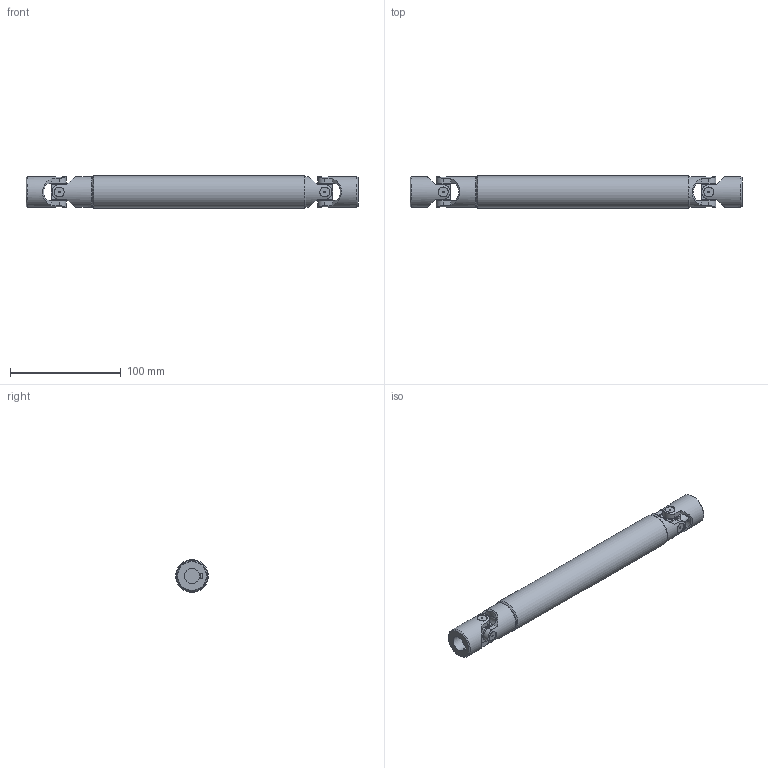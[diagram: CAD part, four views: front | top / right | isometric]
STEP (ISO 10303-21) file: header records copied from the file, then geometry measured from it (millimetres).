
FILE_DESCRIPTION(/* description */ ('EXTENSIBLE TRANSIMISSIONS Series G DIN 808 -2-'),/* implementation_level */ '2;1');
FILE_NAME(/* name */ '\\SRV2016\Societa\Stefano\Disegni 3D\00Catalogo 3D\03Trasmissioni standard GA\!05GA29\!05GA29_SG0A1429.stp',/* time_stamp */ '2022-02-01T08:45:21+01:00',/* author */ ('acquisti'),/* organization */ ('MARIOFERRI'),/* preprocessor_version */ 'ST-DEVELOPER v15.6',/* originating_system */ 'Autodesk Inventor 2015',/* authorisation */ '');
FILE_SCHEMA (('AUTOMOTIVE_DESIGN { 1 0 10303 214 3 1 1 }'));
Length unit declared in the file: millimetre
Products named in the file (5): 05G SFE; !05GA29 LAI; !05GA29 LCI; 05G MOC; !05GA29_SG0A1429
Assembly tree (6 placements, depth 2):
  !05GA29_SG0A1429
    05G SFE  x2
    !05GA29 LAI
    !05GA29 LCI
    05G MOC  x2
Bounding box: 300 x 29.5 x 29.5 mm (x, y, z)
Volume: 133258.7 mm3; surface area: 61011.1 mm2
Topology: 6 solids, 6 shells, 204 faces, 515 edges, 347 vertices
Faces by surface type: plane 106, cylinder 69, cone 25, torus 4
Full cylindrical faces by diameter (mm): 1.5 x8, 9 x8, 12.5 x8, 14 x1, 14.5 x2, 24 x1, 28 x4, 29.5 x1
Entity records: 5255 total; most frequent: CARTESIAN_POINT 1529, DIRECTION 751, ORIENTED_EDGE 724, EDGE_CURVE 362, AXIS2_PLACEMENT_3D 299, VERTEX_POINT 262, EDGE_LOOP 212, FACE_OUTER_BOUND 158
